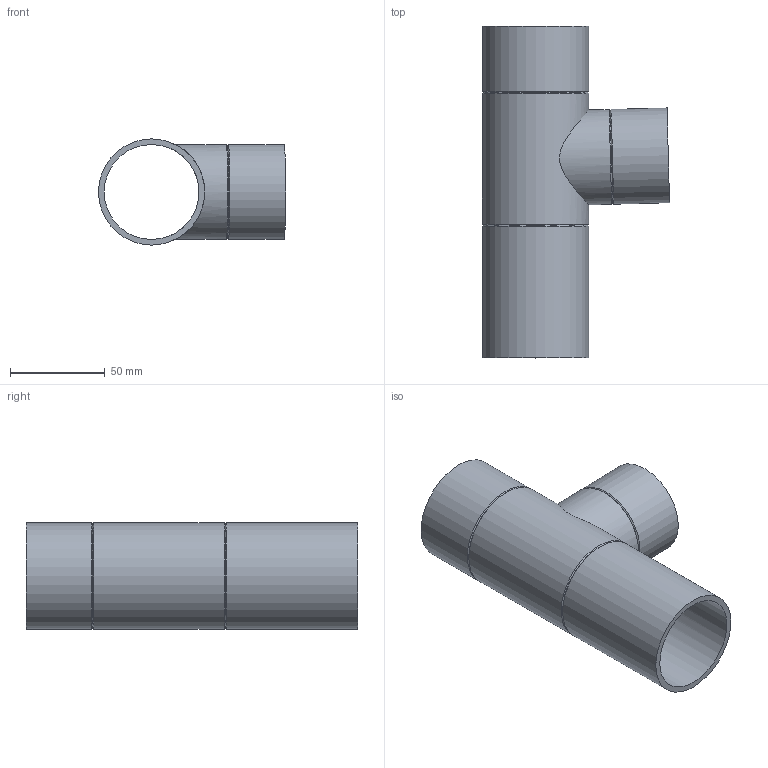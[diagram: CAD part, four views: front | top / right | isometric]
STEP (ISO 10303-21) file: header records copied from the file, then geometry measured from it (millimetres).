
FILE_DESCRIPTION(/* description */ (''),/* implementation_level */ '2;1');
FILE_NAME(/* name */ 'Z:\Geberit\Export\NewStep\363162.stp',/* time_stamp */ '2014-04-01T21:08:58+02:00',/* author */ ('nelson'),/* organization */ (''),/* preprocessor_version */ 'ST-DEVELOPER v15.2',/* originating_system */ 'Autodesk Inventor 2014',/* authorisation */ '');
FILE_SCHEMA (('AUTOMOTIVE_DESIGN { 1 0 10303 214 3 1 1 }'));
Length unit declared in the file: millimetre
Products named in the file (1): 363162
Bounding box: 98.63 x 175 x 56 mm (x, y, z)
Volume: 103370.6 mm3; surface area: 70662.7 mm2
Topology: 1 solids, 1 shells, 16 faces, 37 edges, 23 vertices
Faces by surface type: cylinder 7, cone 6, plane 3
Full cylindrical faces by diameter (mm): 44 x1, 50 x3, 56 x3
Entity records: 503 total; most frequent: CARTESIAN_POINT 181, DIRECTION 64, EDGE_LOOP 34, ORIENTED_EDGE 34, AXIS2_PLACEMENT_3D 32, FACE_BOUND 22, VERTEX_POINT 17, EDGE_CURVE 17
